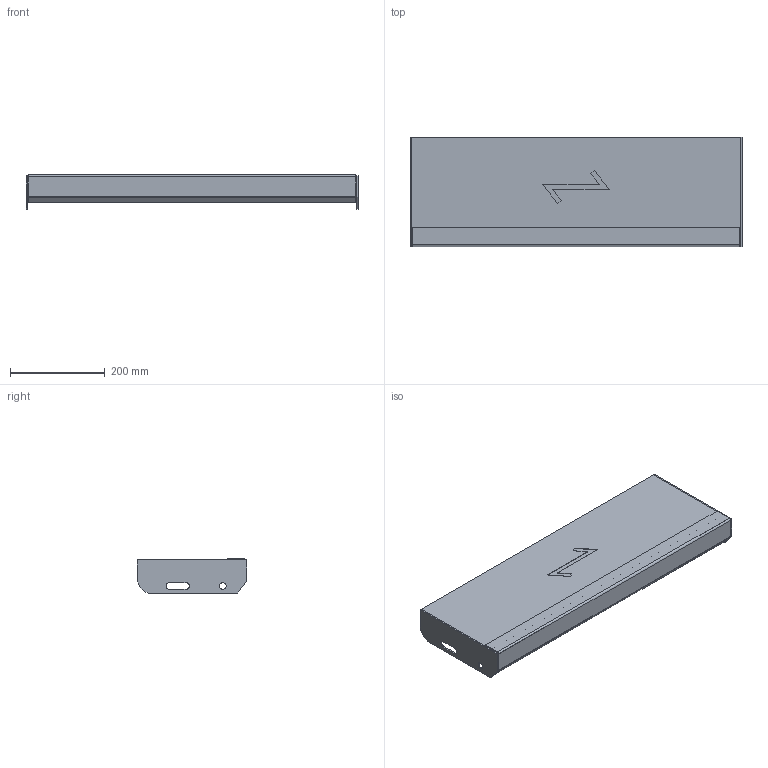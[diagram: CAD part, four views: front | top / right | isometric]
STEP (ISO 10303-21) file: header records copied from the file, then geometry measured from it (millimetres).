
FILE_DESCRIPTION (( 'STEP AP203' ), '1' );
FILE_NAME ('StegTH6-S-nya_steget-700x230.STEP', '2020-03-04T07:42:19', ( '' ), ( '' ), 'SwSTEP 2.0', 'SolidWorks 2019', '' );
FILE_SCHEMA (( 'CONFIG_CONTROL_DESIGN' ));
Length unit declared in the file: millimetre
Products named in the file (5): SW0000039465; SW0000038701; SW0000039243; SW0000038933; StegTH6-S-nya_steget-700x230
Assembly tree (5 placements, depth 3):
  StegTH6-S-nya_steget-700x230
    SW0000039465
      SW0000038933
      SW0000039243
      SW0000038701  x2
Bounding box: 700 x 230 x 72 mm (x, y, z)
Volume: 3849289.7 mm3; surface area: 538598.1 mm2
Topology: 4 solids, 4 shells, 67 faces, 158 edges, 100 vertices
Faces by surface type: plane 51, cylinder 16
Entity records: 2002 total; most frequent: DIRECTION 261, CARTESIAN_POINT 254, ORIENTED_EDGE 238, EDGE_CURVE 119, VECTOR 99, LINE 99, AXIS2_PLACEMENT_3D 81, VERTEX_POINT 74
